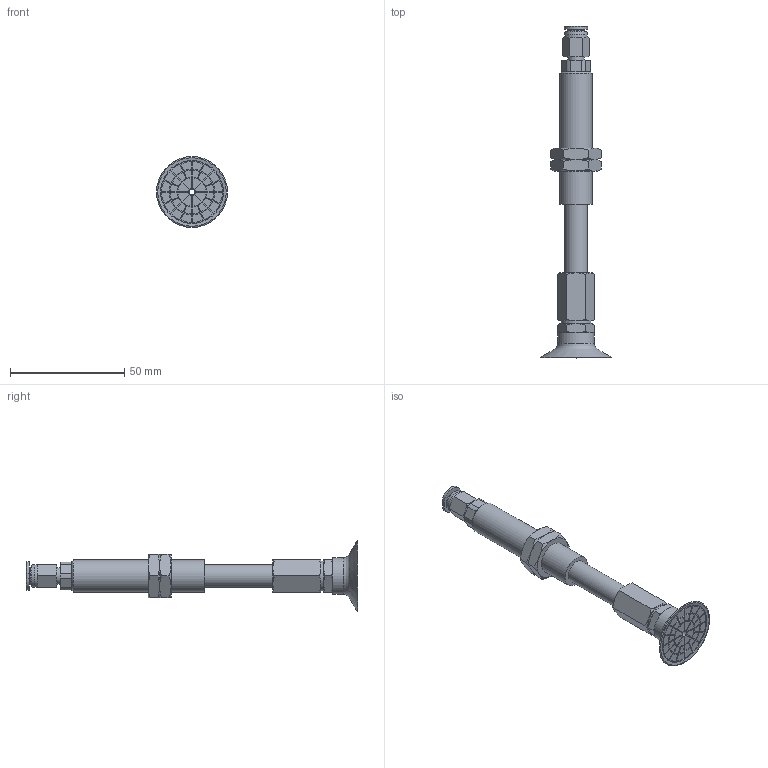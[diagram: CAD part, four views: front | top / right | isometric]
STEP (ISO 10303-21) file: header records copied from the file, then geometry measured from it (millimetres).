
FILE_DESCRIPTION(('STEP AP203'),'1');
FILE_NAME('-O.stp','2025-08-26T09:09:51',(' '),(' '),'Spatial InterOp 3D',' ',' ');
FILE_SCHEMA(('CONFIG_CONTROL_DESIGN'));
Length unit declared in the file: millimetre
Products named in the file (8): BNABPATS-30B-30-※-O; ADAPTER; NAPATS-30B-30--M; NAPATS-30B-30--F; Nut-25-S; TN-PA-30B-M6; PC-C_06-M5; BPAG-30B-※_3D
Assembly tree (8 placements, depth 2):
  BNABPATS-30B-30-※-O
    ADAPTER
    NAPATS-30B-30--M
    NAPATS-30B-30--F
    Nut-25-S  x2
    TN-PA-30B-M6
    PC-C_06-M5
    BPAG-30B-※_3D
Bounding box: 31.04 x 145.18 x 31.04 mm (x, y, z)
Volume: 20282.1 mm3; surface area: 16355.1 mm2
Topology: 7 solids, 10 shells, 399 faces, 914 edges, 581 vertices
Faces by surface type: plane 202, cylinder 106, cone 76, torus 8, bspline 4, revolution 3
Full cylindrical faces by diameter (mm): 2.5 x1, 3 x3, 4 x2, 4.134 x1, 4.917 x1, 5 x1, 6 x3, 7 x1, 7.4 x1, 8.2 x1, 10 x5, 12.917 x2, 13 x1, 14 x1, 16 x1, 27.5 x1
Entity records: 11197 total; most frequent: CARTESIAN_POINT 2470, DIRECTION 1764, ORIENTED_EDGE 1612, EDGE_CURVE 808, AXIS2_PLACEMENT_3D 678, VERTEX_POINT 544, EDGE_LOOP 486, LINE 405
